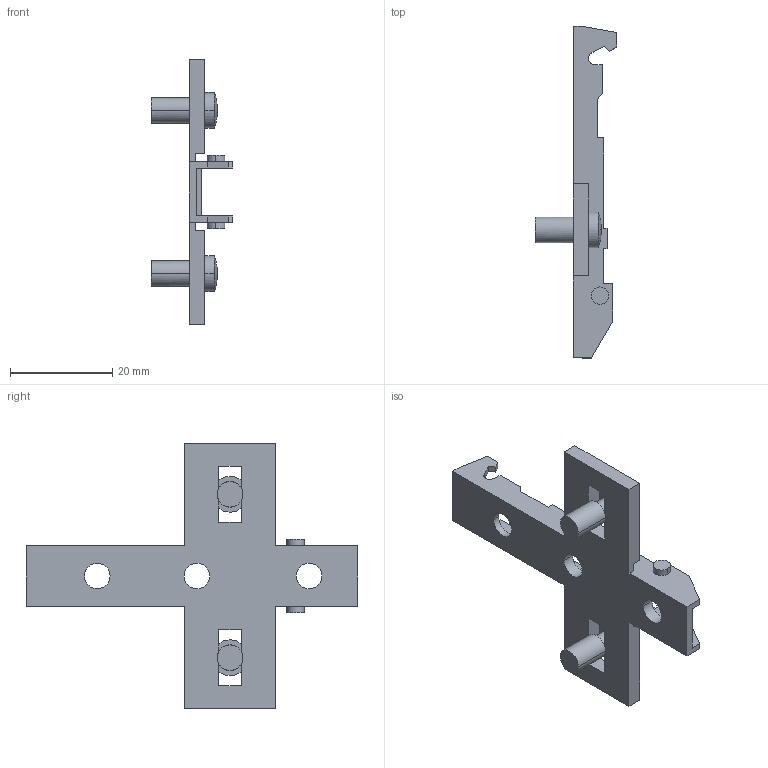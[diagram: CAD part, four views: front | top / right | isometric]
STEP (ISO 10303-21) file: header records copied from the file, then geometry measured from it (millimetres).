
FILE_DESCRIPTION (( 'STEP AP214' ), '1' );
FILE_NAME ('Eco Kreuzmontageplatte LR37_32_Dübel 5mm_kurz_H-02.step', '2010-11-18T10:07:20', ( 'grass' ), ( '' ), 'SwSTEP 2.0', 'SolidWorks 2010', '' );
FILE_SCHEMA (( 'AUTOMOTIVE_DESIGN' ));
Length unit declared in the file: millimetre
Products named in the file (1): Eco Kreuzmontageplatte LR37_32_Dübel 5mm_kurz_H-02
Bounding box: 16 x 65 x 52 mm (x, y, z)
Volume: 4269.7 mm3; surface area: 5273.6 mm2
Topology: 1 solids, 1 shells, 103 faces, 307 edges, 200 vertices
Faces by surface type: plane 75, cylinder 24, sphere 4
Entity records: 3519 total; most frequent: ORIENTED_EDGE 614, CARTESIAN_POINT 611, DIRECTION 587, EDGE_CURVE 307, LINE 235, VECTOR 235, VERTEX_POINT 200, AXIS2_PLACEMENT_3D 176
